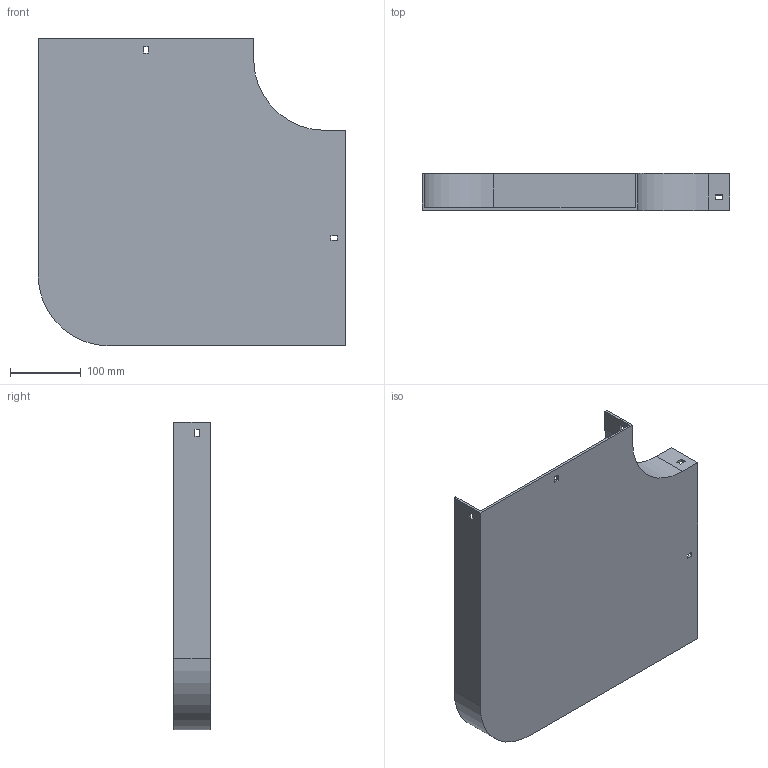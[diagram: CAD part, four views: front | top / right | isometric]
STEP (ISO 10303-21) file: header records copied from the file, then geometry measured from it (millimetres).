
FILE_DESCRIPTION (( 'STEP AP214' ), '1' );
FILE_NAME ('10F1B300.step', '2025-02-21T12:57:07', ( '' ), ( '' ), 'SwSTEP 2.0', 'SolidWorks 2023', '' );
FILE_SCHEMA (( 'AUTOMOTIVE_DESIGN' ));
Length unit declared in the file: millimetre
Products named in the file (1): 10F1B300
Bounding box: 434 x 52 x 434 mm (x, y, z)
Volume: 775613 mm3; surface area: 450355 mm2
Topology: 1 solids, 1 shells, 42 faces, 120 edges, 80 vertices
Faces by surface type: plane 38, cylinder 4
Entity records: 1399 total; most frequent: CARTESIAN_POINT 243, ORIENTED_EDGE 240, DIRECTION 214, EDGE_CURVE 120, LINE 112, VECTOR 112, VERTEX_POINT 80, EDGE_LOOP 54
